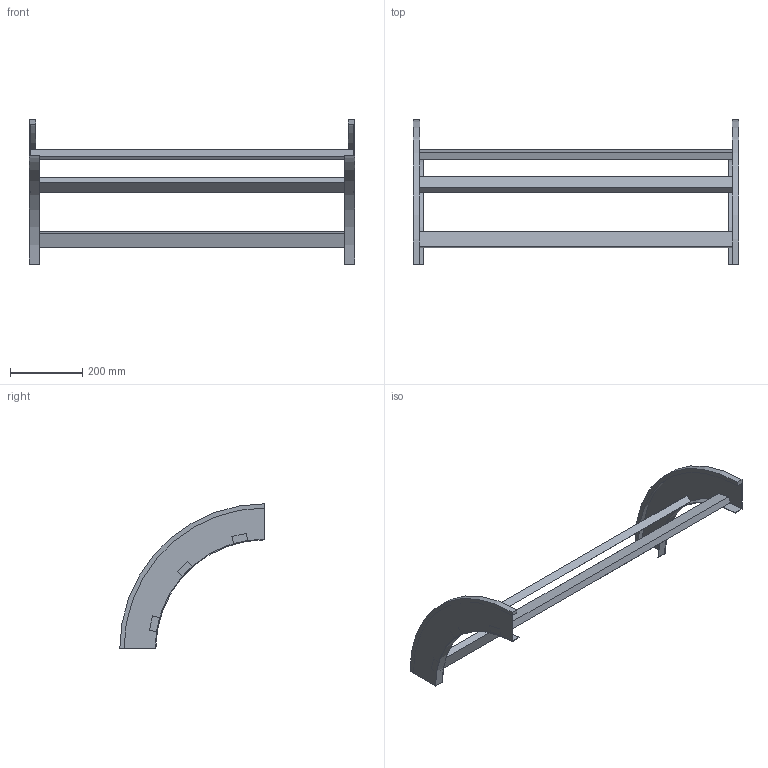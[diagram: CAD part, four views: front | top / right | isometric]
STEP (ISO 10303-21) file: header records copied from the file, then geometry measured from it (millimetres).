
FILE_DESCRIPTION (( 'STEP AP214' ), '1' );
FILE_NAME ('B2_33B3D900.step', '2025-02-21T15:02:47', ( '' ), ( '' ), 'SwSTEP 2.0', 'SolidWorks 2023', '' );
FILE_SCHEMA (( 'AUTOMOTIVE_DESIGN' ));
Length unit declared in the file: millimetre
Products named in the file (3): B2_LONGH.DISCESA_90°_H100_R300; B2_33B3D900; TRAVERSINO_900
Assembly tree (5 placements, depth 2):
  B2_33B3D900
    B2_LONGH.DISCESA_90°_H100_R300  x2
    TRAVERSINO_900  x3
Bounding box: 900 x 400 x 400 mm (x, y, z)
Volume: 2682127.7 mm3; surface area: 643075.9 mm2
Topology: 5 solids, 5 shells, 38 faces, 84 edges, 56 vertices
Faces by surface type: plane 30, cylinder 8
Entity records: 560 total; most frequent: DIRECTION 92, CARTESIAN_POINT 84, ORIENTED_EDGE 72, EDGE_CURVE 36, AXIS2_PLACEMENT_3D 32, VECTOR 28, LINE 28, VERTEX_POINT 24
